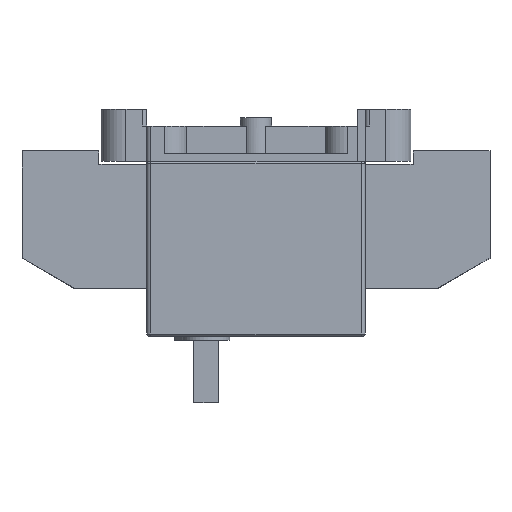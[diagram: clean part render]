
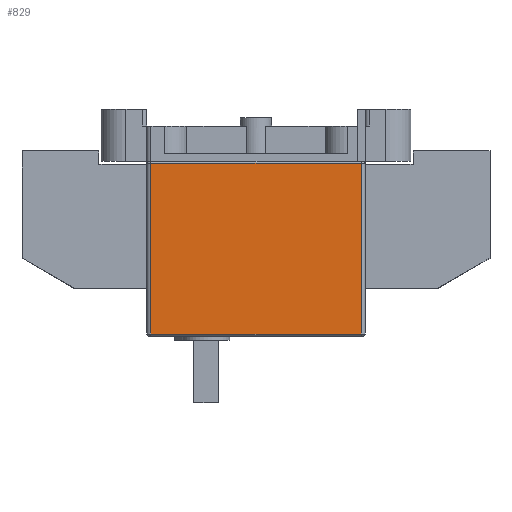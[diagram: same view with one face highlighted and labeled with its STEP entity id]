
A CAD part, left-side view. The second image highlights one B-rep face of the part: STEP entity #829.
In plain terms, the highlighted planar face has unit normal (-1, 0, 0).
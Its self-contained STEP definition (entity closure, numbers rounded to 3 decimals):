
#302=PLANE('',#8499);
#829=ADVANCED_FACE('',(#1313),#302,.F.);
#1313=FACE_OUTER_BOUND('',#1749,.T.);
#1749=EDGE_LOOP('',(#5339,#5340,#5341,#5342));
#2627=LINE('',#12709,#3515);
#2634=LINE('',#12789,#3522);
#2641=LINE('',#12805,#3529);
#2642=LINE('',#12807,#3530);
#3515=VECTOR('',#10349,1.);
#3522=VECTOR('',#10402,1.);
#3529=VECTOR('',#10425,1.);
#3530=VECTOR('',#10428,1.);
#5339=ORIENTED_EDGE('',*,*,#7585,.T.);
#5340=ORIENTED_EDGE('',*,*,#7551,.T.);
#5341=ORIENTED_EDGE('',*,*,#7586,.F.);
#5342=ORIENTED_EDGE('',*,*,#7575,.T.);
#6511=VERTEX_POINT('',#12697);
#6515=VERTEX_POINT('',#12706);
#6530=VERTEX_POINT('',#12761);
#6534=VERTEX_POINT('',#12788);
#7551=EDGE_CURVE('',#6515,#6511,#2627,.T.);
#7575=EDGE_CURVE('',#6530,#6534,#2634,.T.);
#7585=EDGE_CURVE('',#6534,#6515,#2641,.T.);
#7586=EDGE_CURVE('',#6530,#6511,#2642,.T.);
#8499=AXIS2_PLACEMENT_3D('',#12808,#10429,#10430);
#10349=DIRECTION('',(0.,1.,0.));
#10402=DIRECTION('',(0.,-1.,0.));
#10425=DIRECTION('',(0.,0.,1.));
#10428=DIRECTION('',(0.,0.,1.));
#10429=DIRECTION('',(1.,0.,0.));
#10430=DIRECTION('',(0.,1.,0.));
#12697=CARTESIAN_POINT('',(-197.5,50.5,-1.));
#12706=CARTESIAN_POINT('',(-197.5,-50.5,-1.));
#12709=CARTESIAN_POINT('',(-197.5,-50.5,-1.));
#12761=CARTESIAN_POINT('',(-197.5,50.5,-83.));
#12788=CARTESIAN_POINT('',(-197.5,-50.5,-83.));
#12789=CARTESIAN_POINT('',(-197.5,-50.5,-83.));
#12805=CARTESIAN_POINT('',(-197.5,-50.5,-84.));
#12807=CARTESIAN_POINT('',(-197.5,50.5,-84.));
#12808=CARTESIAN_POINT('',(-197.5,-50.5,-84.));
